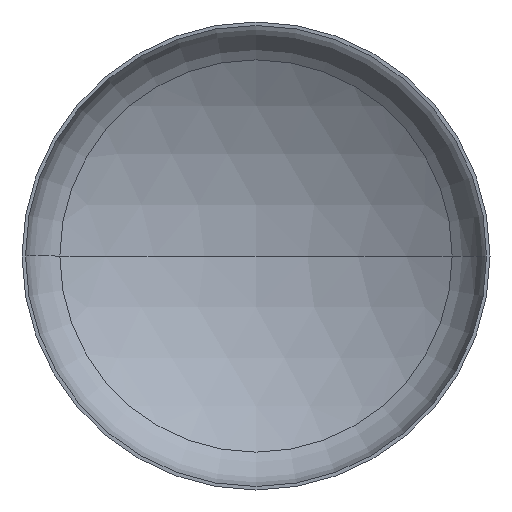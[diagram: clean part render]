
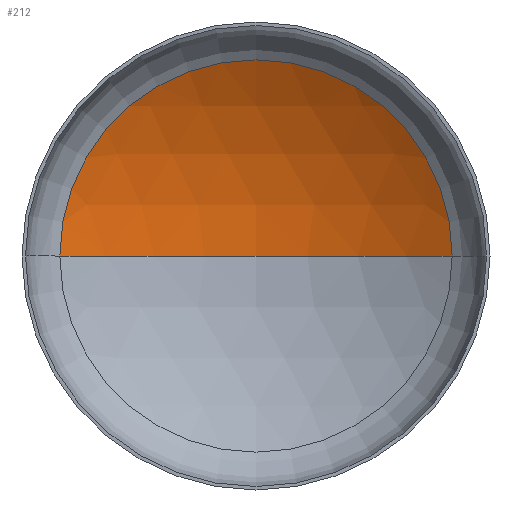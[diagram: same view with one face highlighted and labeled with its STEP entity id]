
A CAD part, front view. The second image highlights one B-rep face of the part: STEP entity #212.
In plain terms, the highlighted spherical face has radius 5600 mm.
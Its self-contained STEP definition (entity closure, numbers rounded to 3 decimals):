
#1 = CIRCLE ( 'NONE', #92, 5600. ) ;
#7 = VERTEX_POINT ( 'NONE', #235 ) ;
#13 = ORIENTED_EDGE ( 'NONE', *, *, #149, .F. ) ;
#14 = VERTEX_POINT ( 'NONE', #238 ) ;
#33 = EDGE_LOOP ( 'NONE', ( #13, #93, #90 ) ) ;
#37 = CARTESIAN_POINT ( 'NONE',  ( 0., -3730.062, 0. ) ) ;
#53 = DIRECTION ( 'NONE',  ( 0., 0., -1. ) ) ;
#58 = AXIS2_PLACEMENT_3D ( 'NONE', #314, #372, #275 ) ;
#90 = ORIENTED_EDGE ( 'NONE', *, *, #146, .T. ) ;
#92 = AXIS2_PLACEMENT_3D ( 'NONE', #351, #219, #377 ) ;
#93 = ORIENTED_EDGE ( 'NONE', *, *, #148, .T. ) ;
#101 = AXIS2_PLACEMENT_3D ( 'NONE', #37, #53, #166 ) ;
#104 = VERTEX_POINT ( 'NONE', #169 ) ;
#108 = AXIS2_PLACEMENT_3D ( 'NONE', #156, #134, #119 ) ;
#119 = DIRECTION ( 'NONE',  ( 1., 0., 0. ) ) ;
#134 = DIRECTION ( 'NONE',  ( 0., -1., 0. ) ) ;
#146 = EDGE_CURVE ( 'NONE', #7, #104, #310, .T. ) ;
#148 = EDGE_CURVE ( 'NONE', #14, #7, #252, .T. ) ;
#149 = EDGE_CURVE ( 'NONE', #14, #104, #1, .T. ) ;
#156 = CARTESIAN_POINT ( 'NONE',  ( 0., 1039.926, 0. ) ) ;
#166 = DIRECTION ( 'NONE',  ( -1., 0., 0. ) ) ;
#169 = CARTESIAN_POINT ( 'NONE',  ( -2933.805, 1039.926, 0. ) ) ;
#212 = ADVANCED_FACE ( 'NONE', ( #401 ), #300, .F. ) ;
#219 = DIRECTION ( 'NONE',  ( 0., 0., 1. ) ) ;
#235 = CARTESIAN_POINT ( 'NONE',  ( 2933.805, 1039.926, 0. ) ) ;
#238 = CARTESIAN_POINT ( 'NONE',  ( 0., 1869.938, 0. ) ) ;
#252 = CIRCLE ( 'NONE', #101, 5600. ) ;
#275 = DIRECTION ( 'NONE',  ( -1., 0., 0. ) ) ;
#300 = SPHERICAL_SURFACE ( 'NONE', #58, 5600. ) ;
#310 = CIRCLE ( 'NONE', #108, 2933.805 ) ;
#314 = CARTESIAN_POINT ( 'NONE',  ( 0., -3730.062, 0. ) ) ;
#351 = CARTESIAN_POINT ( 'NONE',  ( 0., -3730.062, 0. ) ) ;
#372 = DIRECTION ( 'NONE',  ( 0., 0., -1. ) ) ;
#377 = DIRECTION ( 'NONE',  ( 1., 0., 0. ) ) ;
#401 = FACE_OUTER_BOUND ( 'NONE', #33, .T. ) ;
